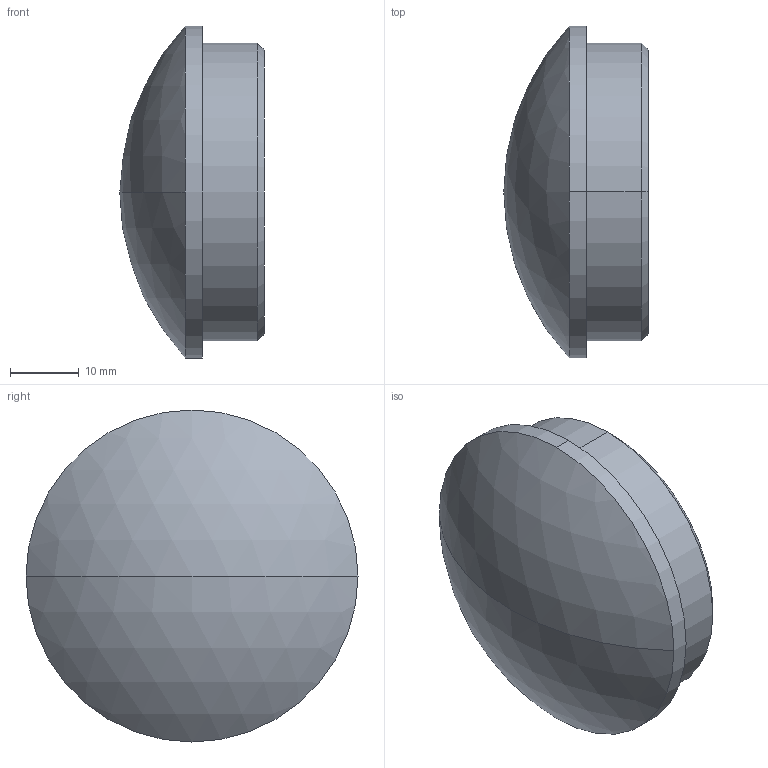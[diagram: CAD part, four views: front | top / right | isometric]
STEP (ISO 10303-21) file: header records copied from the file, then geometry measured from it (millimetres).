
FILE_DESCRIPTION (( 'STEP AP203' ), '1' );
FILE_NAME ('3D_GR1392_DN48.3x2.5_18380263.STEP', '2024-09-21T10:24:43', ( '' ), ( '' ), 'SwSTEP 2.0', 'SolidWorks 2024', '' );
FILE_SCHEMA (( 'CONFIG_CONTROL_DESIGN' ));
Length unit declared in the file: millimetre
Products named in the file (1): 3D_GR1392_DN48.3x2.5_18380263
Bounding box: 21 x 48.3 x 48.3 mm (x, y, z)
Volume: 26918.6 mm3; surface area: 5470.7 mm2
Topology: 1 solids, 1 shells, 10 faces, 20 edges, 13 vertices
Faces by surface type: cylinder 4, cone 2, sphere 2, plane 2
Entity records: 347 total; most frequent: DIRECTION 56, CARTESIAN_POINT 44, ORIENTED_EDGE 40, AXIS2_PLACEMENT_3D 25, EDGE_CURVE 20, CIRCLE 14, VERTEX_POINT 13, EDGE_LOOP 11
